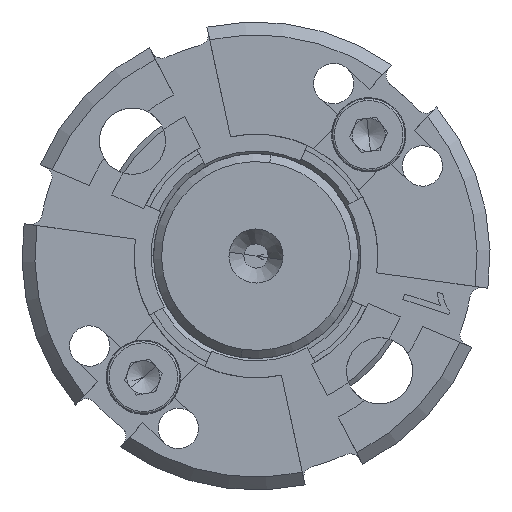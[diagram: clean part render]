
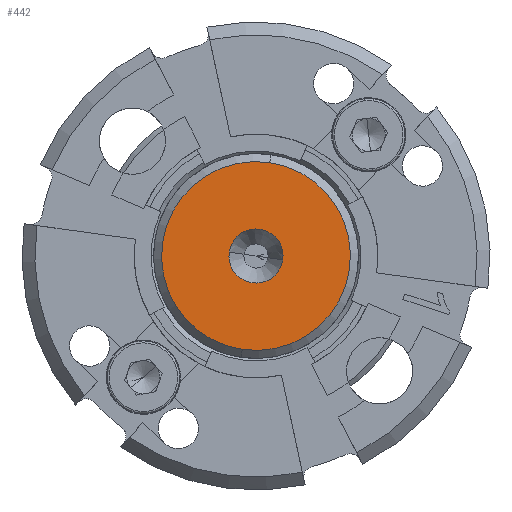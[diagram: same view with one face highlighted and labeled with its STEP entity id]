
A CAD part, front view. The second image highlights one B-rep face of the part: STEP entity #442.
In plain terms, the highlighted planar face has unit normal (0, -1, 0) as drawn and (0, 1, 0) by its records, which use the part's own axes.
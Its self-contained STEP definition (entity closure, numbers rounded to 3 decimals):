
#39 = AXIS2_PLACEMENT_3D ( 'NONE', #1976, #15086, #3871 ) ;
#442 = ADVANCED_FACE ( 'NONE', ( #11997, #7624 ), #10830, .T. ) ;
#1190 = CARTESIAN_POINT ( 'NONE',  ( 0., 0., 5.85 ) ) ;
#1976 = CARTESIAN_POINT ( 'NONE',  ( 0., 0., 0. ) ) ;
#2576 = EDGE_LOOP ( 'NONE', ( #18235, #4616 ) ) ;
#3337 = VERTEX_POINT ( 'NONE', #13911 ) ;
#3397 = CARTESIAN_POINT ( 'NONE',  ( 1.675, 0., 0. ) ) ;
#3871 = DIRECTION ( 'NONE',  ( 0., 0., 1. ) ) ;
#4409 = DIRECTION ( 'NONE',  ( 0., 1., 0. ) ) ;
#4616 = ORIENTED_EDGE ( 'NONE', *, *, #14326, .T. ) ;
#4817 = ORIENTED_EDGE ( 'NONE', *, *, #5308, .F. ) ;
#5308 = EDGE_CURVE ( 'NONE', #11181, #7153, #17251, .T. ) ;
#5332 = VERTEX_POINT ( 'NONE', #1190 ) ;
#5426 = CARTESIAN_POINT ( 'NONE',  ( -1.675, 0., 0. ) ) ;
#6814 = CIRCLE ( 'NONE', #15641, 1.675 ) ;
#7151 = CARTESIAN_POINT ( 'NONE',  ( 0., 0., 0. ) ) ;
#7153 = VERTEX_POINT ( 'NONE', #5426 ) ;
#7517 = CIRCLE ( 'NONE', #39, 5.85 ) ;
#7624 = FACE_BOUND ( 'NONE', #19868, .T. ) ;
#8382 = CIRCLE ( 'NONE', #18912, 5.85 ) ;
#9050 = DIRECTION ( 'NONE',  ( 0., 0., 1. ) ) ;
#9540 = CARTESIAN_POINT ( 'NONE',  ( 0., 0., 0. ) ) ;
#9751 = AXIS2_PLACEMENT_3D ( 'NONE', #10516, #23642, #12414 ) ;
#9829 = AXIS2_PLACEMENT_3D ( 'NONE', #7151, #20289, #9050 ) ;
#10012 = EDGE_CURVE ( 'NONE', #7153, #11181, #6814, .T. ) ;
#10516 = CARTESIAN_POINT ( 'NONE',  ( 0., 0., 0. ) ) ;
#10830 = PLANE ( 'NONE',  #9829 ) ;
#11181 = VERTEX_POINT ( 'NONE', #3397 ) ;
#11412 = DIRECTION ( 'NONE',  ( -1., 0., 0. ) ) ;
#11997 = FACE_OUTER_BOUND ( 'NONE', #2576, .T. ) ;
#12414 = DIRECTION ( 'NONE',  ( -1., 0., 0. ) ) ;
#13911 = CARTESIAN_POINT ( 'NONE',  ( 0., 0., -5.85 ) ) ;
#14326 = EDGE_CURVE ( 'NONE', #5332, #3337, #7517, .T. ) ;
#14552 = EDGE_CURVE ( 'NONE', #3337, #5332, #8382, .T. ) ;
#15086 = DIRECTION ( 'NONE',  ( 0., 1., 0. ) ) ;
#15631 = CARTESIAN_POINT ( 'NONE',  ( 0., 0., 0. ) ) ;
#15641 = AXIS2_PLACEMENT_3D ( 'NONE', #9540, #22644, #11412 ) ;
#17251 = CIRCLE ( 'NONE', #9751, 1.675 ) ;
#17527 = DIRECTION ( 'NONE',  ( 0., 0., 1. ) ) ;
#18235 = ORIENTED_EDGE ( 'NONE', *, *, #14552, .T. ) ;
#18912 = AXIS2_PLACEMENT_3D ( 'NONE', #15631, #4409, #17527 ) ;
#19868 = EDGE_LOOP ( 'NONE', ( #20641, #4817 ) ) ;
#20289 = DIRECTION ( 'NONE',  ( 0., 1., 0. ) ) ;
#20641 = ORIENTED_EDGE ( 'NONE', *, *, #10012, .F. ) ;
#22644 = DIRECTION ( 'NONE',  ( 0., 1., 0. ) ) ;
#23642 = DIRECTION ( 'NONE',  ( 0., 1., 0. ) ) ;
